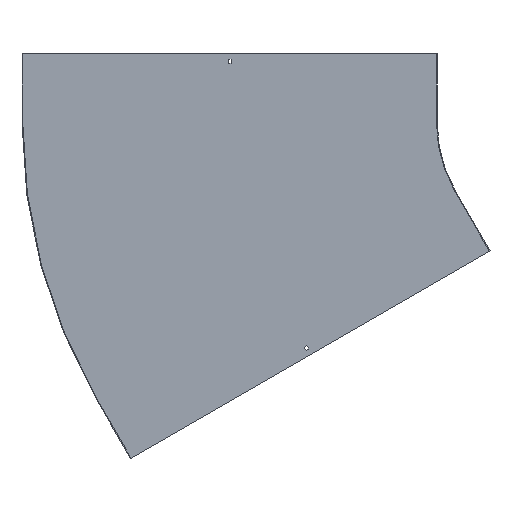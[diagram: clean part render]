
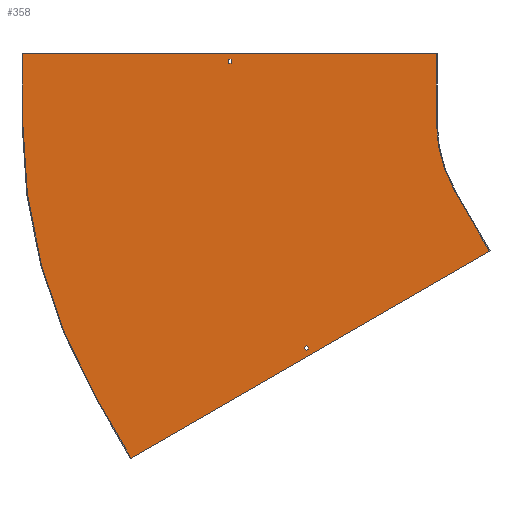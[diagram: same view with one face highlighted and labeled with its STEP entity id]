
A CAD part, front view. The second image highlights one B-rep face of the part: STEP entity #358.
In plain terms, the highlighted planar face has unit normal (0, -1, 0).
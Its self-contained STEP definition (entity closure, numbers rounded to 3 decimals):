
#1 = EDGE_CURVE ( 'NONE', #241, #685, #172, .T. ) ;
#5 = CARTESIAN_POINT ( 'NONE',  ( -646.704, -1.5, -373.375 ) ) ;
#6 = VECTOR ( 'NONE', #662, 1000. ) ;
#17 = VERTEX_POINT ( 'NONE', #218 ) ;
#23 = VERTEX_POINT ( 'NONE', #798 ) ;
#30 = AXIS2_PLACEMENT_3D ( 'NONE', #378, #105, #375 ) ;
#32 = EDGE_CURVE ( 'NONE', #261, #129, #87, .T. ) ;
#36 = CARTESIAN_POINT ( 'NONE',  ( -753.25, -1.5, 129. ) ) ;
#38 = ORIENTED_EDGE ( 'NONE', *, *, #669, .F. ) ;
#50 = DIRECTION ( 'NONE',  ( 0., 0., -1. ) ) ;
#54 = ORIENTED_EDGE ( 'NONE', *, *, #155, .T. ) ;
#55 = EDGE_CURVE ( 'NONE', #238, #492, #287, .T. ) ;
#60 = VECTOR ( 'NONE', #615, 1000. ) ;
#63 = DIRECTION ( 'NONE',  ( -1., 0., 0. ) ) ;
#65 = CARTESIAN_POINT ( 'NONE',  ( -300., -1.5, 0. ) ) ;
#66 = LINE ( 'NONE', #188, #329 ) ;
#69 = ORIENTED_EDGE ( 'NONE', *, *, #524, .F. ) ;
#73 = CARTESIAN_POINT ( 'NONE',  ( -964.23, -1.5, -729.904 ) ) ;
#75 = CARTESIAN_POINT ( 'NONE',  ( 0., -1.5, 129. ) ) ;
#77 = VECTOR ( 'NONE', #63, 1000. ) ;
#82 = DIRECTION ( 'NONE',  ( 0.5, 0., -0.866 ) ) ;
#83 = VECTOR ( 'NONE', #682, 1000. ) ;
#87 = LINE ( 'NONE', #426, #83 ) ;
#95 = ORIENTED_EDGE ( 'NONE', *, *, #32, .F. ) ;
#101 = ORIENTED_EDGE ( 'NONE', *, *, #290, .F. ) ;
#103 = CARTESIAN_POINT ( 'NONE',  ( -652.334, -1.5, -376.625 ) ) ;
#105 = DIRECTION ( 'NONE',  ( 0., -1., 0. ) ) ;
#107 = ORIENTED_EDGE ( 'NONE', *, *, #513, .F. ) ;
#110 = ORIENTED_EDGE ( 'NONE', *, *, #812, .F. ) ;
#129 = VERTEX_POINT ( 'NONE', #432 ) ;
#130 = EDGE_CURVE ( 'NONE', #17, #261, #411, .T. ) ;
#142 = LINE ( 'NONE', #75, #77 ) ;
#148 = EDGE_CURVE ( 'NONE', #129, #267, #544, .T. ) ;
#149 = DIRECTION ( 'NONE',  ( 0., 0., -1. ) ) ;
#155 = EDGE_CURVE ( 'NONE', #492, #701, #369, .T. ) ;
#157 = CARTESIAN_POINT ( 'NONE',  ( -753.25, -1.5, 0. ) ) ;
#158 = VECTOR ( 'NONE', #307, 1000. ) ;
#165 = DIRECTION ( 'NONE',  ( -0.5, 0., 0.866 ) ) ;
#166 = CARTESIAN_POINT ( 'NONE',  ( -1201.5, -1.5, 150. ) ) ;
#172 = CIRCLE ( 'NONE', #503, 300. ) ;
#174 = EDGE_LOOP ( 'NONE', ( #688, #95, #392, #101 ) ) ;
#176 = EDGE_CURVE ( 'NONE', #433, #238, #225, .T. ) ;
#186 = ORIENTED_EDGE ( 'NONE', *, *, #401, .F. ) ;
#188 = CARTESIAN_POINT ( 'NONE',  ( -300., -1.5, 150. ) ) ;
#218 = CARTESIAN_POINT ( 'NONE',  ( -587.834, -1.5, -488.342 ) ) ;
#219 = LINE ( 'NONE', #408, #6 ) ;
#225 = LINE ( 'NONE', #157, #60 ) ;
#238 = VERTEX_POINT ( 'NONE', #393 ) ;
#241 = VERTEX_POINT ( 'NONE', #65 ) ;
#247 = FACE_OUTER_BOUND ( 'NONE', #770, .T. ) ;
#261 = VERTEX_POINT ( 'NONE', #478 ) ;
#267 = VERTEX_POINT ( 'NONE', #597 ) ;
#269 = CARTESIAN_POINT ( 'NONE',  ( -746.75, -1.5, 138. ) ) ;
#276 = CARTESIAN_POINT ( 'NONE',  ( -1200., -1.5, 150. ) ) ;
#279 = CARTESIAN_POINT ( 'NONE',  ( -1200., -1.5, 0. ) ) ;
#281 = DIRECTION ( 'NONE',  ( 0., 1., 0. ) ) ;
#287 = LINE ( 'NONE', #419, #364 ) ;
#290 = EDGE_CURVE ( 'NONE', #267, #17, #219, .T. ) ;
#295 = ORIENTED_EDGE ( 'NONE', *, *, #1, .F. ) ;
#300 = VERTEX_POINT ( 'NONE', #276 ) ;
#303 = LINE ( 'NONE', #512, #570 ) ;
#307 = DIRECTION ( 'NONE',  ( 0., 0., -1. ) ) ;
#326 = VERTEX_POINT ( 'NONE', #404 ) ;
#329 = VECTOR ( 'NONE', #50, 1000. ) ;
#341 = CARTESIAN_POINT ( 'NONE',  ( -259.808, -1.5, -150. ) ) ;
#344 = LINE ( 'NONE', #279, #384 ) ;
#358 = ADVANCED_FACE ( 'NONE', ( #429, #247, #695 ), #746, .T. ) ;
#359 = LINE ( 'NONE', #166, #814 ) ;
#364 = VECTOR ( 'NONE', #815, 1000. ) ;
#369 = LINE ( 'NONE', #625, #158 ) ;
#375 = DIRECTION ( 'NONE',  ( 0., 0., -1. ) ) ;
#378 = CARTESIAN_POINT ( 'NONE',  ( 0., -1.5, 0. ) ) ;
#384 = VECTOR ( 'NONE', #606, 1000. ) ;
#392 = ORIENTED_EDGE ( 'NONE', *, *, #130, .F. ) ;
#393 = CARTESIAN_POINT ( 'NONE',  ( -753.25, -1.5, 138. ) ) ;
#397 = VECTOR ( 'NONE', #645, 1000. ) ;
#401 = EDGE_CURVE ( 'NONE', #713, #758, #303, .T. ) ;
#404 = CARTESIAN_POINT ( 'NONE',  ( -184.808, -1.5, -279.904 ) ) ;
#408 = CARTESIAN_POINT ( 'NONE',  ( 64.5, -1.5, -111.717 ) ) ;
#411 = LINE ( 'NONE', #103, #580 ) ;
#419 = CARTESIAN_POINT ( 'NONE',  ( 0., -1.5, 138. ) ) ;
#426 = CARTESIAN_POINT ( 'NONE',  ( 69., -1.5, -119.512 ) ) ;
#427 = EDGE_LOOP ( 'NONE', ( #841, #54, #617, #501 ) ) ;
#429 = FACE_BOUND ( 'NONE', #174, .T. ) ;
#430 = DIRECTION ( 'NONE',  ( 1., 0., 0. ) ) ;
#432 = CARTESIAN_POINT ( 'NONE',  ( -577.704, -1.5, -492.887 ) ) ;
#433 = VERTEX_POINT ( 'NONE', #36 ) ;
#435 = CARTESIAN_POINT ( 'NONE',  ( -1039.23, -1.5, -600. ) ) ;
#447 = CARTESIAN_POINT ( 'NONE',  ( -259.808, -1.5, -150. ) ) ;
#448 = VECTOR ( 'NONE', #552, 1000. ) ;
#452 = LINE ( 'NONE', #840, #397 ) ;
#475 = VECTOR ( 'NONE', #521, 1000. ) ;
#478 = CARTESIAN_POINT ( 'NONE',  ( -583.334, -1.5, -496.137 ) ) ;
#486 = DIRECTION ( 'NONE',  ( 0., 0., -1. ) ) ;
#490 = DIRECTION ( 'NONE',  ( 0., -1., 0. ) ) ;
#492 = VERTEX_POINT ( 'NONE', #269 ) ;
#501 = ORIENTED_EDGE ( 'NONE', *, *, #176, .T. ) ;
#503 = AXIS2_PLACEMENT_3D ( 'NONE', #736, #490, #486 ) ;
#512 = CARTESIAN_POINT ( 'NONE',  ( -964.23, -1.5, -729.904 ) ) ;
#513 = EDGE_CURVE ( 'NONE', #326, #713, #452, .T. ) ;
#521 = DIRECTION ( 'NONE',  ( 0.5, 0., -0.866 ) ) ;
#524 = EDGE_CURVE ( 'NONE', #685, #326, #655, .T. ) ;
#541 = EDGE_CURVE ( 'NONE', #23, #241, #66, .T. ) ;
#544 = LINE ( 'NONE', #5, #448 ) ;
#552 = DIRECTION ( 'NONE',  ( -0.5, 0., 0.866 ) ) ;
#564 = ORIENTED_EDGE ( 'NONE', *, *, #761, .F. ) ;
#570 = VECTOR ( 'NONE', #165, 1000. ) ;
#580 = VECTOR ( 'NONE', #82, 1000. ) ;
#597 = CARTESIAN_POINT ( 'NONE',  ( -582.204, -1.5, -485.092 ) ) ;
#598 = CARTESIAN_POINT ( 'NONE',  ( -746.75, -1.5, 129. ) ) ;
#606 = DIRECTION ( 'NONE',  ( 0., 0., 1. ) ) ;
#615 = DIRECTION ( 'NONE',  ( 0., 0., 1. ) ) ;
#617 = ORIENTED_EDGE ( 'NONE', *, *, #780, .T. ) ;
#625 = CARTESIAN_POINT ( 'NONE',  ( -746.75, -1.5, 0. ) ) ;
#626 = AXIS2_PLACEMENT_3D ( 'NONE', #748, #281, #149 ) ;
#645 = DIRECTION ( 'NONE',  ( -0.866, 0., -0.5 ) ) ;
#655 = LINE ( 'NONE', #447, #475 ) ;
#662 = DIRECTION ( 'NONE',  ( -0.866, 0., -0.5 ) ) ;
#669 = EDGE_CURVE ( 'NONE', #759, #300, #344, .T. ) ;
#678 = CARTESIAN_POINT ( 'NONE',  ( -1200., -1.5, 0. ) ) ;
#682 = DIRECTION ( 'NONE',  ( 0.866, 0., 0.5 ) ) ;
#685 = VERTEX_POINT ( 'NONE', #341 ) ;
#688 = ORIENTED_EDGE ( 'NONE', *, *, #148, .F. ) ;
#695 = FACE_BOUND ( 'NONE', #427, .T. ) ;
#701 = VERTEX_POINT ( 'NONE', #598 ) ;
#713 = VERTEX_POINT ( 'NONE', #73 ) ;
#722 = CIRCLE ( 'NONE', #626, 1200. ) ;
#736 = CARTESIAN_POINT ( 'NONE',  ( 0., -1.5, 0. ) ) ;
#746 = PLANE ( 'NONE',  #30 ) ;
#748 = CARTESIAN_POINT ( 'NONE',  ( 0., -1.5, 0. ) ) ;
#758 = VERTEX_POINT ( 'NONE', #435 ) ;
#759 = VERTEX_POINT ( 'NONE', #678 ) ;
#761 = EDGE_CURVE ( 'NONE', #300, #23, #359, .T. ) ;
#770 = EDGE_LOOP ( 'NONE', ( #564, #38, #110, #186, #107, #69, #295, #777 ) ) ;
#777 = ORIENTED_EDGE ( 'NONE', *, *, #541, .F. ) ;
#780 = EDGE_CURVE ( 'NONE', #701, #433, #142, .T. ) ;
#798 = CARTESIAN_POINT ( 'NONE',  ( -300., -1.5, 150. ) ) ;
#812 = EDGE_CURVE ( 'NONE', #758, #759, #722, .T. ) ;
#814 = VECTOR ( 'NONE', #430, 1000. ) ;
#815 = DIRECTION ( 'NONE',  ( 1., 0., 0. ) ) ;
#840 = CARTESIAN_POINT ( 'NONE',  ( -183.509, -1.5, -279.154 ) ) ;
#841 = ORIENTED_EDGE ( 'NONE', *, *, #55, .T. ) ;
